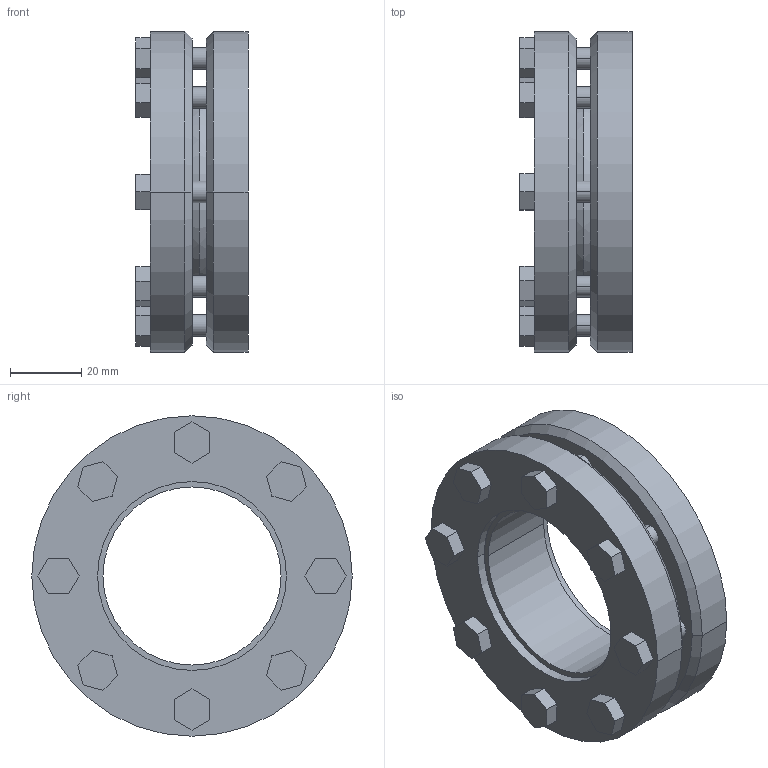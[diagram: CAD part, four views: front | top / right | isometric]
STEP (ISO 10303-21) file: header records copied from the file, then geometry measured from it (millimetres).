
FILE_DESCRIPTION((''),'2;1');
FILE_NAME('CALEN4_1','2015-06-07T',('Luca'),(''),'PRO/ENGINEER BY PARAMETRIC TECHNOLOGY CORPORATION, 2008230','PRO/ENGINEER BY PARAMETRIC TECHNOLOGY CORPORATION, 2008230','');
FILE_SCHEMA(('CONFIG_CONTROL_DESIGN'));
Length unit declared in the file: millimetre
Products named in the file (1): CALEN4_1
Bounding box: 31.5 x 90 x 90 mm (x, y, z)
Volume: 107366.1 mm3; surface area: 35113.3 mm2
Topology: 2 solids, 2 shells, 100 faces, 248 edges, 162 vertices
Faces by surface type: plane 62, cylinder 26, cone 12
Entity records: 3034 total; most frequent: DIRECTION 514, CARTESIAN_POINT 510, ORIENTED_EDGE 496, EDGE_CURVE 248, VECTOR 182, LINE 182, AXIS2_PLACEMENT_3D 166, VERTEX_POINT 162
